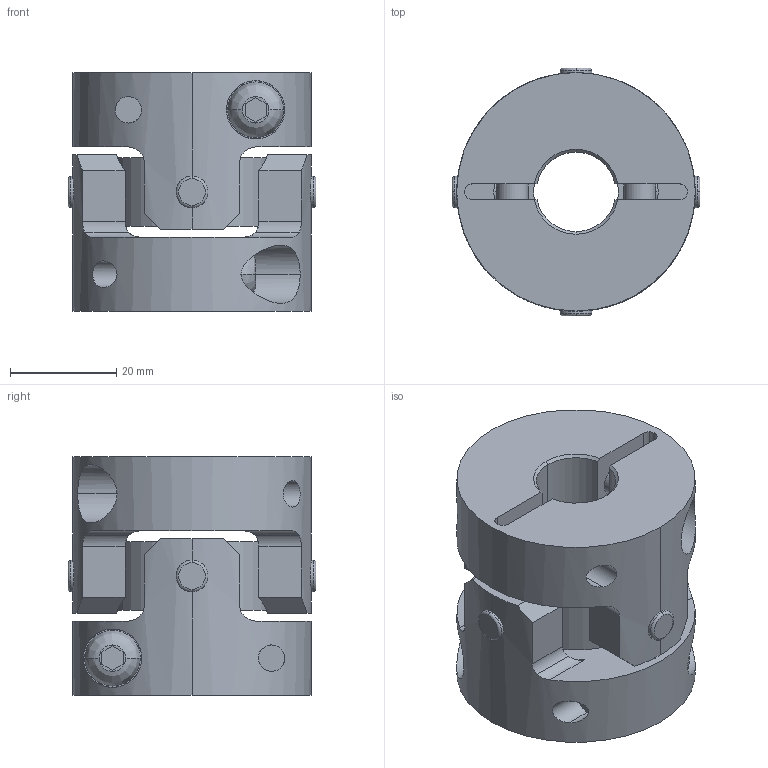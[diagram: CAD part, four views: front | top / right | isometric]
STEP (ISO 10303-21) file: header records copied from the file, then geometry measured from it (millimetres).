
FILE_DESCRIPTION((''),'2;1');
FILE_NAME('UA-45C-15×17.stp','2013-05-22T09:54:30',(''),(''),'AutoCAD STEP 2000i','AutoCAD 2000i',', , ');
FILE_SCHEMA(('CONFIG_CONTROL_DESIGN'));
Length unit declared in the file: millimetre
Products named in the file (7): UA-45C-8×17; 忣兜1; UA-4502-D17; BTN-M6; UA-4502-D08-1; UA-4502-D08; UA45-SEN
Assembly tree (8 placements, depth 3):
  UA-45C-8×17
    忣兜1
    UA-4502-D17
      BTN-M6
    UA-4502-D08-1
      BTN-M6
    UA-4502-D08
      BTN-M6
    UA45-SEN
Bounding box: 46.73 x 46.73 x 45 mm (x, y, z)
Volume: 48668.4 mm3; surface area: 19768.1 mm2
Topology: 1 solids, 1 shells, 206 faces, 554 edges, 364 vertices
Faces by surface type: cylinder 96, plane 78, cone 16, bspline 8, torus 8
Entity records: 8537 total; most frequent: CARTESIAN_POINT 3201, ORIENTED_EDGE 1108, DIRECTION 1068, EDGE_CURVE 554, AXIS2_PLACEMENT_3D 411, VERTEX_POINT 364, VECTOR 246, LINE 246
